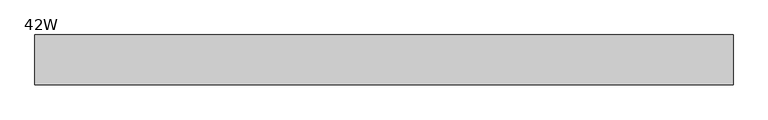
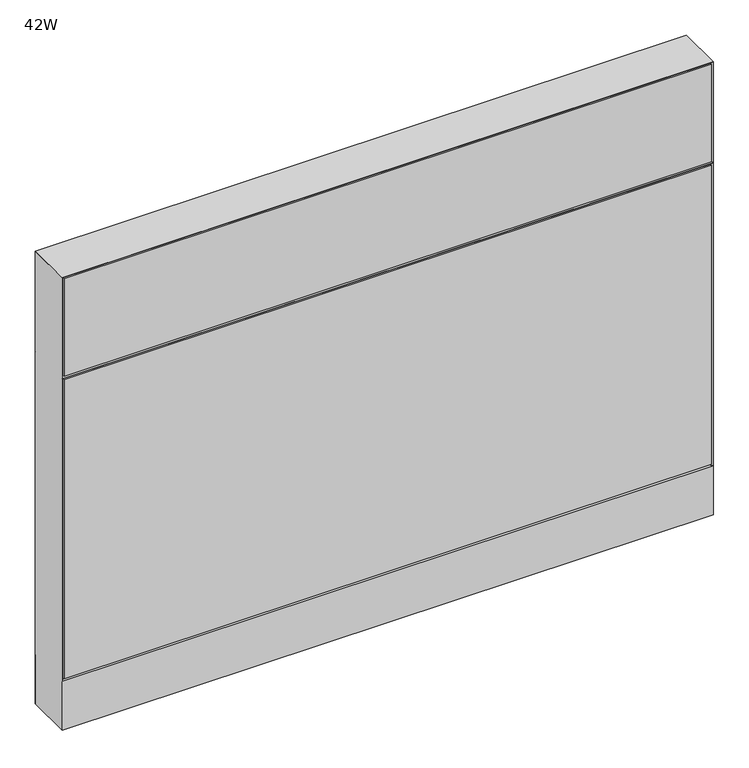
"""IFC4 building model written with IfcOpenShell, lengths in millimetres: furniture geometry, Steelcase - Montage - Frame - 31H - Enhanced Standard - Base Cavity : 42W."""

from ifc_helpers import new_model, si_unit, point, frame, frame_2d, origin, origin_with_axes, place, context, project, spatial, polyline, circle_curve, trimmed, segment, composite_curve, outline, extrude, faceted_brep, source, transform, mapped, element, save


def furniture_42w_982e6336(model_context):
    return source(origin(), model_context, "Body", "SolidModel", [
        faceted_brep([(-5.7e-06, 38.1026268, 612.7750028), (6.3499913, 31.7526299, 619.1249997), (1060.4500048, 31.7526299, 619.1249997), (1066.8, 38.1026251, 612.7750045), (1060.4500048, 31.7526299, 606.4250003), (6.3499913, 31.7526299, 606.4250003)], [[[0, 1, 2, 3]], [[3, 4, 5, 0]], [[1, 5, 4, 2]], [[0, 5, 1]], [[2, 4, 3]]]),
        extrude(outline(polyline([(3.175, 31.7500194), (3.175, 38.1000194), (1063.625, 38.1000194), (1063.625, 31.7500194), (3.175, 31.7500194)])), frame((0.0, 0.0, 92.075), z_axis=(0.0, 0.0, 1.0), x_axis=(1.0, 0.0, 0.0)), (0.0, 0.0, 1.0), 517.525),
        extrude(outline(polyline([(3.175, 31.7500194), (3.175, 38.1000194), (1063.625, 38.1000194), (1063.625, 31.7500194), (3.175, 31.7500194)])), frame((0.0, 0.0, 615.95), z_axis=(0.0, 0.0, 1.0), x_axis=(1.0, 0.0, 0.0)), (0.0, 0.0, 1.0), 168.275),
        faceted_brep([(0.0, -38.1026297, 612.775), (1066.8, -38.1026297, 612.775), (1060.4500048, -31.7526299, 619.1249997), (6.3499913, -31.7526299, 619.1249997), (6.3499913, -31.7526299, 606.4250003), (1060.4500048, -31.7526299, 606.4250003)], [[[0, 1, 2, 3]], [[1, 0, 4, 5]], [[3, 2, 5, 4]], [[0, 3, 4]], [[2, 1, 5]]]),
        extrude(outline(polyline([(3.175, -31.7500194), (1063.625, -31.7500194), (1063.625, -38.1000194), (3.175, -38.1000194), (3.175, -31.7500194)])), frame((0.0, 0.0, 92.075), z_axis=(0.0, 0.0, 1.0), x_axis=(1.0, 0.0, 0.0)), (0.0, 0.0, 1.0), 517.525),
        extrude(outline(polyline([(3.175, -31.7500194), (1063.625, -31.7500194), (1063.625, -38.1000194), (3.175, -38.1000194), (3.175, -31.7500194)])), frame((0.0, 0.0, 615.95), z_axis=(0.0, 0.0, 1.0), x_axis=(1.0, 0.0, 0.0)), (0.0, 0.0, 1.0), 168.275),
        extrude(outline(polyline([(6.350003, -31.7499985), (1060.449997, -31.7499985), (1066.8, -38.1000015), (0.0, -38.1000015), (6.350003, -31.7499985)])), frame((0.0, 0.0, 4.064), z_axis=(0.0, 0.0, 1.0), x_axis=(1.0, 0.0, 0.0)), (0.0, 0.0, 1.0), 84.835997),
        extrude(outline(polyline([(6.3500002, 31.7500017), (0.0, 38.1000015), (1066.8, 38.1000015), (1060.4500002, 31.7500017), (6.3500002, 31.7500017)])), frame((0.0, 0.0, 4.064), z_axis=(0.0, 0.0, 1.0), x_axis=(1.0, 0.0, 0.0)), (0.0, 0.0, 1.0), 84.835997),
        faceted_brep([(1066.8, -38.1000015, 787.4), (0.0, -38.1000015, 787.4), (6.3500484, -31.749953, 781.0499516), (1060.4499516, -31.749953, 781.0499516), (6.3500484, 31.749953, 781.0499516), (1060.4499516, 31.749953, 781.0499516), (0.0, 38.1000015, 787.4), (1066.8, 38.1000015, 787.4)], [[[0, 1, 2, 3]], [[3, 2, 4, 5]], [[6, 7, 5, 4]], [[1, 0, 7, 6]], [[2, 1, 6, 4]], [[0, 3, 5, 7]]]),
        extrude(outline(composite_curve([segment(trimmed(circle_curve(frame_2d((44.45, 0.0)), 15.24), [point((29.21, 0.0))], [point((59.69, 0.0))], False, "CARTESIAN"), True, "CONTINUOUS"), segment(trimmed(circle_curve(frame_2d((44.45, 0.0)), 15.24), [point((59.69, 0.0))], [point((29.21, 0.0))], False, "CARTESIAN"), True, "CONTINUOUS")], self_intersect=False)), origin_with_axes(), (0.0, 0.0, 1.0), 4.064),
        extrude(outline(composite_curve([segment(trimmed(circle_curve(frame_2d((1022.35, 0.0)), 15.24), [point((1007.11, 0.0))], [point((1037.59, 0.0))], False, "CARTESIAN"), True, "CONTINUOUS"), segment(trimmed(circle_curve(frame_2d((1022.35, 0.0)), 15.24), [point((1037.59, 0.0))], [point((1007.11, 0.0))], False, "CARTESIAN"), True, "CONTINUOUS")], self_intersect=False)), origin_with_axes(), (0.0, 0.0, 1.0), 4.064),
        faceted_brep([(1066.8, -38.1000106, 4.064), (1066.8, 38.1000015, 4.064), (1066.8, 38.1000015, 787.4), (1066.8, -38.1000106, 787.3999637), (0.0, 38.1000015, 4.064), (0.0, -38.1000015, 4.064), (0.0, -38.1000015, 787.4), (0.0, 38.1000015, 787.4), (1060.4499879, 31.7500017, 606.425), (6.35, 31.7500017, 606.425), (6.3499998, 31.7500017, 619.125), (1060.4499879, 31.7500017, 619.125), (6.35, -31.7499985, 619.125), (1060.4499879, -31.7499985, 619.125), (6.350003, -31.7499985, 606.425), (1060.4499879, -31.7499985, 606.425), (6.35, 31.7500015, 4.064), (6.35, -31.7500015, 4.064), (1060.4499879, 31.7499894, 4.064), (1060.4499879, -31.7499985, 4.064), (6.35, 31.7500015, 781.05), (6.35, -31.7500015, 781.05), (1060.4499879, -31.7499985, 781.0499516), (1060.4499879, 31.7499898, 781.0499516)], [[[0, 1, 2, 3]], [[4, 5, 6, 7]], [[8, 9, 10, 11]], [[11, 10, 12, 13]], [[13, 12, 14, 15]], [[9, 8, 15, 14]], [[16, 17, 5, 4]], [[18, 1, 0, 19]], [[16, 4, 7, 20, 10, 9]], [[5, 17, 14, 12, 21, 6]], [[17, 16, 9, 14]], [[12, 10, 20, 21]], [[18, 19, 15, 8]], [[11, 13, 22, 23]], [[19, 0, 3, 22, 13, 15]], [[1, 18, 8, 11, 23, 2]], [[7, 6, 21, 20]], [[3, 2, 23, 22]]]),
    ])


if __name__ == "__main__":
    model = new_model("IFC4")
    model_context = context("Model", 3, world=origin())
    ifc_project = project(units=[si_unit("LENGTHUNIT", "METRE", prefix="MILLI")], contexts=[model_context])
    site = spatial("IfcSite", under=ifc_project)
    building = spatial("IfcBuilding", under=site)
    placement = place(None, origin())
    furniture_42w_shape = furniture_42w_982e6336(model_context)
    element("IfcFurniture", 1, ObjectType="Steelcase - Montage - Frame - 31H - Enhanced Standard - Base Cavity : 42W", at=placement, inside=building, context=model_context, shape_type="MappedRepresentation", body=[
        mapped(furniture_42w_shape, transform((0.0, 0.0, 0.0), x_axis=(1.0, 0.0, 0.0), y_axis=(0.0, 1.0, 0.0), z_axis=(0.0, 0.0, 1.0))),
    ])
    save(model, "model.ifc")
